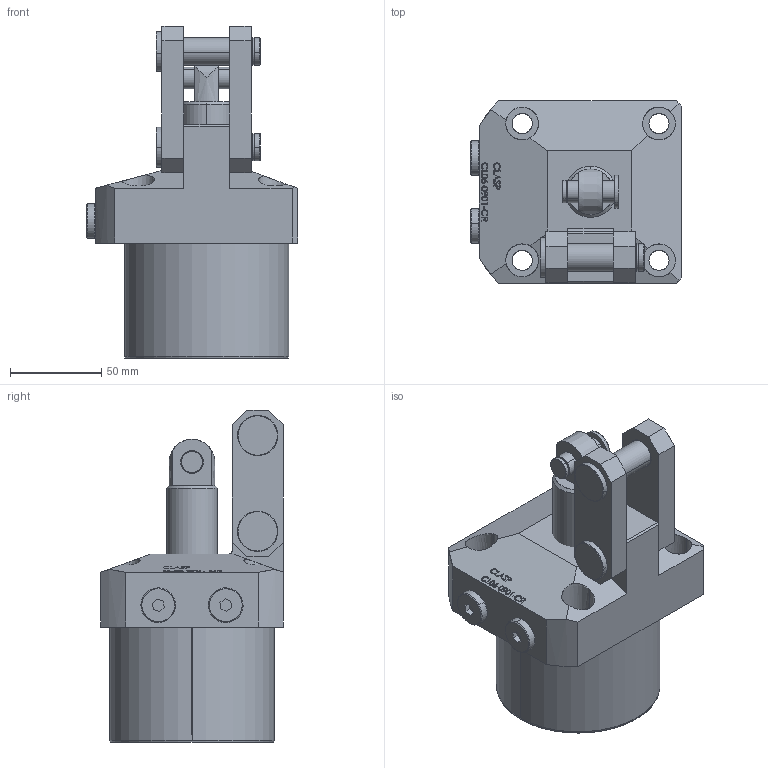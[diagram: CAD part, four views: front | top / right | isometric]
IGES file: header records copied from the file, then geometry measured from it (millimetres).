
Start section: SolidWorks IGES file using analytic representation for surfaces
Global section: file name: D:\karuppas\Clasp\3D model\Link clamp cylinder\CL06--0901-CR\CL06-0901 cr.IGS; native system: SolidWorks 2017; preprocessor: SolidWorks 2017; author: pc; date: 220705.231316; units: millimetre
Bounding box: 116 x 100 x 182 mm (x, y, z)
Surface area: 97429.6 mm2 (no closed solid volume)
Topology: 0 solids, 0 shells, 409 faces, 6355 edges, 6351 vertices
Faces by surface type: bspline 280, revolution 129
